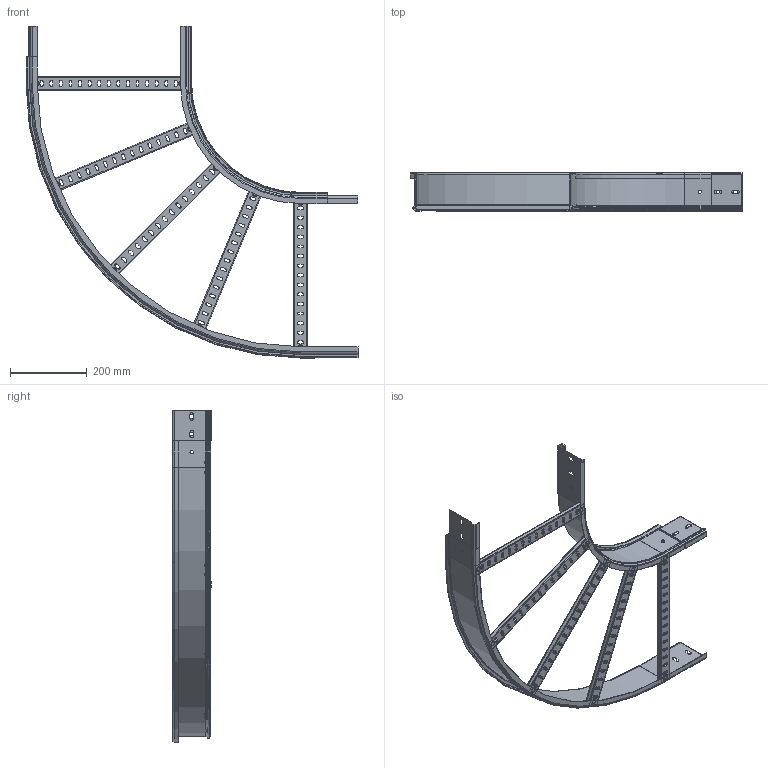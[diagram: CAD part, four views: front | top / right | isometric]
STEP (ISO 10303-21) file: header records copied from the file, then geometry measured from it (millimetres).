
FILE_DESCRIPTION (( 'STEP AP203' ), '1' );
FILE_NAME ('400x100.step', '2023-08-01T07:34:20', ( '' ), ( '' ), 'SwSTEP 2.0', 'SolidWorks 2022', '' );
FILE_SCHEMA (( 'CONFIG_CONTROL_DESIGN' ));
Length unit declared in the file: millimetre
Products named in the file (4): FER_INTERIOR CP_Circular_Enchufable_100; FER_EXTERIOR CP_Circular_Enchufable_400x100; 400x100; Travesaño RAT35 FER GS_400
Assembly tree (7 placements, depth 2):
  400x100
    FER_INTERIOR CP_Circular_Enchufable_100
    Travesaño RAT35 FER GS_400  x5
    FER_EXTERIOR CP_Circular_Enchufable_400x100
Bounding box: 866 x 101.5 x 866 mm (x, y, z)
Volume: 199019.1 mm3; surface area: 895075.6 mm2
Topology: 5 solids, 11 shells, 906 faces, 2294 edges, 1426 vertices
Faces by surface type: plane 476, cylinder 308, torus 102, cone 20
Entity records: 12610 total; most frequent: CARTESIAN_POINT 2177, DIRECTION 2172, ORIENTED_EDGE 1964, EDGE_CURVE 1014, AXIS2_PLACEMENT_3D 775, VERTEX_POINT 626, LINE 622, VECTOR 622
